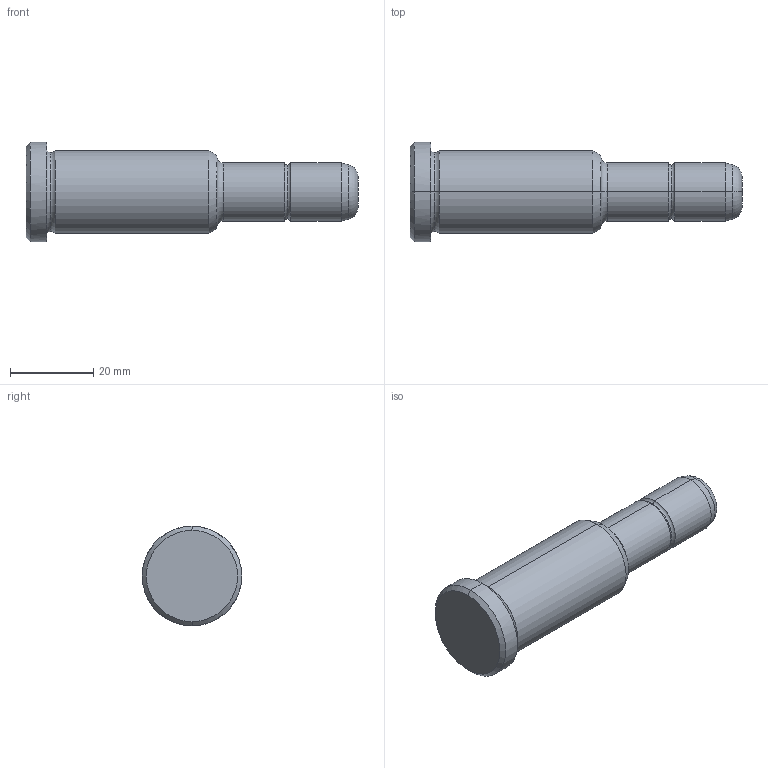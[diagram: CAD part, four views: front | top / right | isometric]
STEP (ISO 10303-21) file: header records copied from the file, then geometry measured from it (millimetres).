
FILE_DESCRIPTION(('CATIA V5 STEP Exchange'),'2;1');
FILE_NAME('C:\Users\Utente\Desktop\IO LAVORO\3D X SITO CF\X SITO\PLASTICA\351\351-14X46X80.stp','2021-08-18T10:42:57+00:00',('none'),('none'),'CATIA Version 5 Release 20 GA (IN-10)','CATIA V5 STEP AP203','none');
FILE_SCHEMA(('CONFIG_CONTROL_DESIGN'));
Length unit declared in the file: millimetre
Products named in the file (1): 351-14X46X80
Bounding box: 80 x 24 x 24 mm (x, y, z)
Volume: 20100 mm3; surface area: 5174.8 mm2
Topology: 1 solids, 1 shells, 30 faces, 86 edges, 60 vertices
Faces by surface type: torus 12, cylinder 8, cone 6, plane 4
Entity records: 1112 total; most frequent: CARTESIAN_POINT 289, ORIENTED_EDGE 172, DIRECTION 138, AXIS2_PLACEMENT_3D 95, EDGE_CURVE 86, CIRCLE 64, VERTEX_POINT 60, EDGE_LOOP 32
